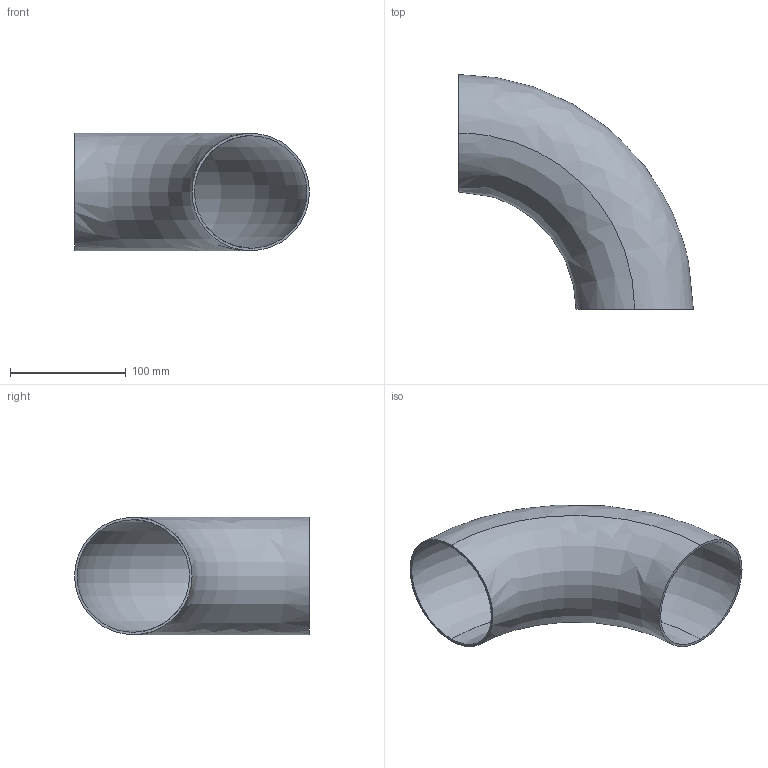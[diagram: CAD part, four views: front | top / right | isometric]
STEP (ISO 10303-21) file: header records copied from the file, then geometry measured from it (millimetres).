
FILE_DESCRIPTION (( 'STEP AP203' ), '1' );
FILE_NAME ('2WCL4.0.STEP', '2018-04-30T15:22:01', ( 'vneprd' ), ( 'Microsoft' ), 'SwSTEP 2.0', 'SolidWorks 2014', '' );
FILE_SCHEMA (( 'CONFIG_CONTROL_DESIGN' ));
Length unit declared in the file: inch
Products named in the file (1): 2WCL4.0
Bounding box: 203.2 x 203.2 x 101.6 mm (x, y, z)
Volume: 157747.1 mm3; surface area: 150956.1 mm2
Topology: 1 solids, 1 shells, 6 faces, 12 edges, 8 vertices
Faces by surface type: bspline 4, plane 2
Entity records: 11301 total; most frequent: CARTESIAN_POINT 11115, ORIENTED_EDGE 24, DIRECTION 14, EDGE_CURVE 12, VERTEX_POINT 8, PERSON_AND_ORGANIZATION 8, EDGE_LOOP 8, B_SPLINE_CURVE_WITH_KNOTS 8
